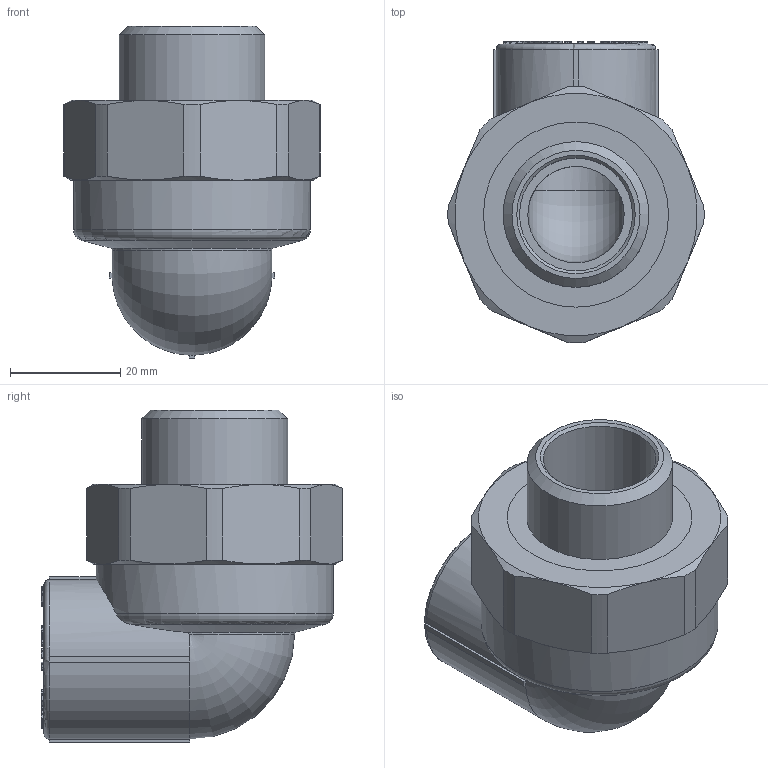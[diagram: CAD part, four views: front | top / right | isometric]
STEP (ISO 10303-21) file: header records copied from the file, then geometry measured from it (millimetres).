
FILE_DESCRIPTION(('STEP AP203'), '1');
FILE_NAME('ÂÐ.752212.037 - VTp.753.0.02005', '', ('UNSPECIFIED'), ('UNSPECIFIED'), 'C3D Converter', 'C3D Toolkit', '');
FILE_SCHEMA(('CONFIG_CONTROL_DESIGN'));
Length unit declared in the file: millimetre
Products named in the file (4): ВР.752212.037; ВР.302639.012.000; ВР.713751.002
Assembly tree (3 placements, depth 3):
  ВР.752212.037
    ВР.302639.012.000
      ВР.713751.002
      (unnamed)
Bounding box: 46.49 x 54.74 x 60.25 mm (x, y, z)
Volume: 48317 mm3; surface area: 23337.7 mm2
Topology: 3 solids, 3 shells, 682 faces, 1868 edges, 1233 vertices
Faces by surface type: extrusion 318, plane 303, cylinder 36, cone 15, torus 10
Full cylindrical faces by diameter (mm): 17.5 x2, 20.5 x1, 23 x2, 26.441 x1, 26.6 x2, 29.6 x6, 33.6 x8, 43 x1
Entity records: 22756 total; most frequent: CARTESIAN_POINT 6721, ORIENTED_EDGE 3608, DIRECTION 2336, EDGE_CURVE 1804, VECTOR 1314, VERTEX_POINT 1217, LINE 996, B_SPLINE_CURVE_WITH_KNOTS 978
